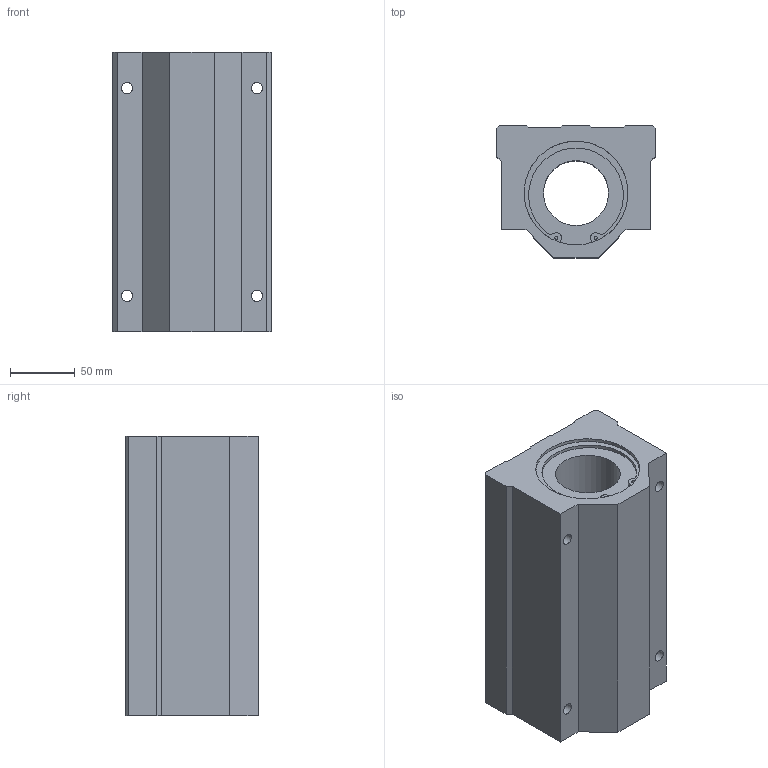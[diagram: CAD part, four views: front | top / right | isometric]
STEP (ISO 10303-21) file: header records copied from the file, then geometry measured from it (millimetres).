
FILE_DESCRIPTION(('STEP AP203'),'1');
FILE_NAME('//192.168.1.1/share/s-4 技術開発/s-4-4_CAD/s-4-4-3_見直し済み/008 修正済み/LC-L/LC-L_TOP/LC-50VLUU.step','2022-05-19T01:14:32',(' '),(' '),'Spatial InterOp 3D',' ',' ');
FILE_SCHEMA(('CONFIG_CONTROL_DESIGN'));
Length unit declared in the file: millimetre
Products named in the file (1): 1
Bounding box: 122 x 102 x 215 mm (x, y, z)
Volume: 1797267.1 mm3; surface area: 150040.4 mm2
Topology: 1 solids, 1 shells, 65 faces, 171 edges, 114 vertices
Faces by surface type: plane 36, cylinder 29
Full cylindrical faces by diameter (mm): 2.5 x4, 8.7 x8, 50 x1, 80 x2
Entity records: 1956 total; most frequent: DIRECTION 338, CARTESIAN_POINT 324, ORIENTED_EDGE 300, EDGE_CURVE 150, AXIS2_PLACEMENT_3D 122, VERTEX_POINT 108, EDGE_LOOP 96, LINE 94
